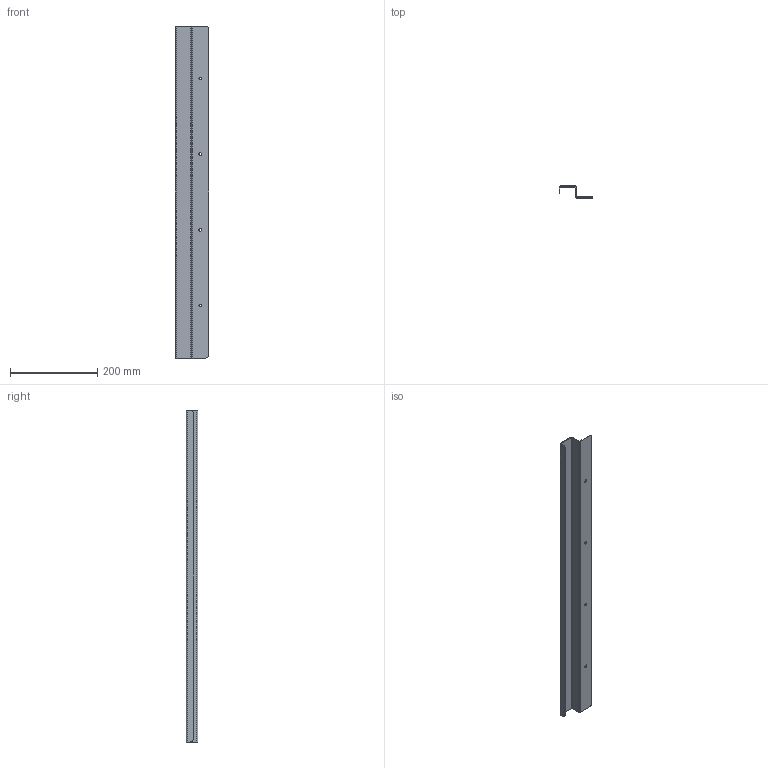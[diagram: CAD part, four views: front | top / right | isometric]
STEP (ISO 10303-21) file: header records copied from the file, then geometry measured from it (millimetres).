
FILE_DESCRIPTION((''),'2;1');
FILE_NAME('MODEL-283_ASM','2017-04-21T',('Eplan'),('SAGINAW CONTROL & ENGINEERING'),'PRO/ENGINEER BY PARAMETRIC TECHNOLOGY CORPORATION, 2012070','PRO/ENGINEER BY PARAMETRIC TECHNOLOGY CORPORATION, 2012070','');
FILE_SCHEMA(('AUTOMOTIVE_DESIGN { 1 0 10303 214 1 1 1 1 }'));
Length unit declared in the file: inch
Products named in the file (3): MODEL-283-DRIP-SHIELD; 109428; MODEL-283_ASM
Assembly tree (2 placements, depth 2):
  MODEL-283_ASM
    MODEL-283-DRIP-SHIELD
    109428
Bounding box: 76.2 x 26.62 x 762 mm (x, y, z)
Volume: 105651.2 mm3; surface area: 175532.3 mm2
Topology: 1 solids, 1 shells, 42 faces, 96 edges, 56 vertices
Faces by surface type: plane 24, cylinder 18
Entity records: 1312 total; most frequent: DIRECTION 226, CARTESIAN_POINT 203, ORIENTED_EDGE 192, EDGE_CURVE 96, AXIS2_PLACEMENT_3D 83, VECTOR 60, LINE 60, VERTEX_POINT 56
